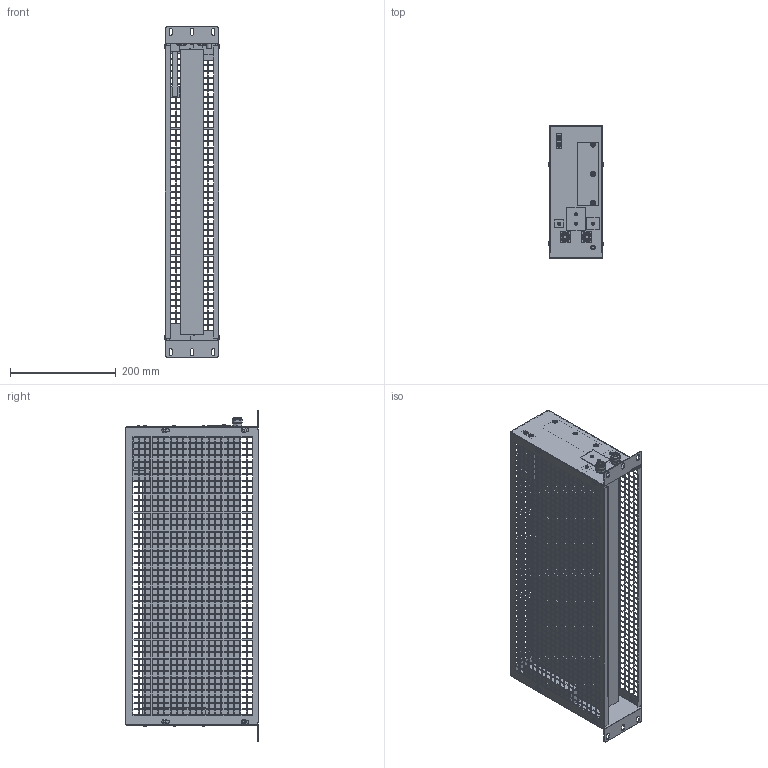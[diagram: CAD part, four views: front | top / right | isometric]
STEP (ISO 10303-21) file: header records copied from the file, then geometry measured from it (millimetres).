
FILE_DESCRIPTION(/* description */ (''),/* implementation_level */ '2;1');
FILE_NAME(/* name */ 'C:\_Vault\Dati\CATALOGO\RMX\RM 01X-Esterno.stp',/* time_stamp */ '2021-11-29T15:35:36+01:00',/* author */ ('claudio'),/* organization */ (''),/* preprocessor_version */ 'ST-DEVELOPER v18.1',/* originating_system */ 'Autodesk Inventor 2022',/* authorisation */ '');
FILE_SCHEMA (('AUTOMOTIVE_DESIGN { 1 0 10303 214 3 1 1 }'));
Products named in the file (2): RM 01X; RM 01X-Esterno
Assembly tree (1 placements, depth 2):
  RM 01X
    RM 01X-Esterno
Bounding box: 105.2 x 251 x 625 mm (x, y, z)
Volume: 4988711.8 mm3; surface area: 780691.3 mm2
Topology: 1 solids, 17 shells, 8823 faces, 26240 edges, 17365 vertices
Faces by surface type: plane 8556, cylinder 164, cone 82, torus 21
Full cylindrical faces by diameter (mm): 3 x3, 3.2 x1, 4 x2, 4.8 x16, 4.917 x1, 5 x8, 6.3 x4, 8.8 x1, 9.6 x2, 9.8 x2, 11 x4, 11.6 x4, 13.86 x2, 15.2 x6, 15.5 x4, 17 x4
Entity records: 306460 total; most frequent: CARTESIAN_POINT 52671, ORIENTED_EDGE 52480, DIRECTION 44366, EDGE_CURVE 26240, LINE 25526, VECTOR 25526, VERTEX_POINT 17365, EDGE_LOOP 12803
